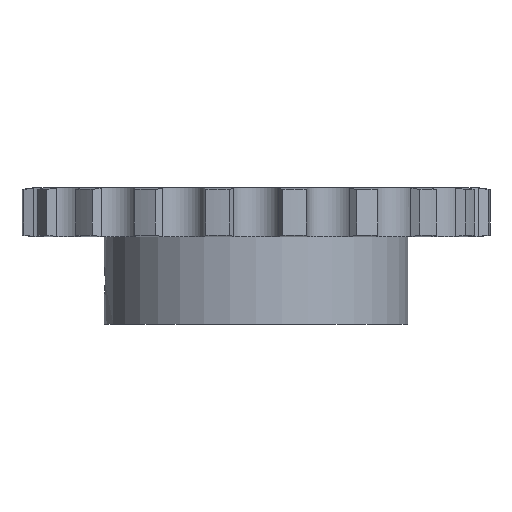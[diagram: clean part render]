
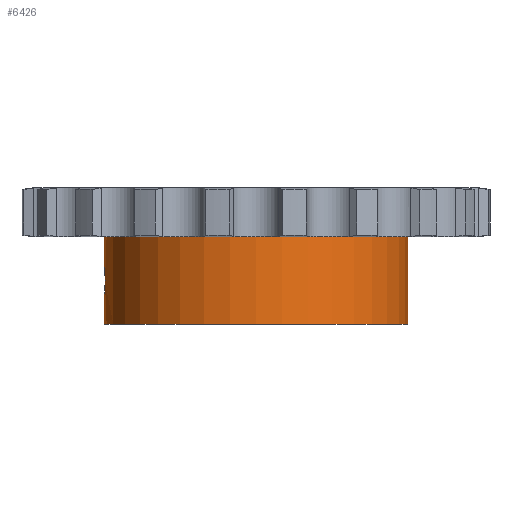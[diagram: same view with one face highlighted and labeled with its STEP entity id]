
A CAD part, front view. The second image highlights one B-rep face of the part: STEP entity #6426.
In plain terms, the highlighted cylindrical face has radius 50 mm (diameter 100 mm), a partial arc.
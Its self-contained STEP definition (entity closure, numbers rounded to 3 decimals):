
#1299=CARTESIAN_POINT('',(0.,0.,-8.1));
#1300=DIRECTION('',(0.,0.,1.));
#1301=DIRECTION('',(-1.,0.,0.));
#1302=AXIS2_PLACEMENT_3D('',#1299,#1300,#1301);
#3114=CARTESIAN_POINT('',(-50.,0.,
-17.5));
#3139=DIRECTION('',(0.,0.,1.));
#3140=VECTOR('',#3139,28.8);
#3141=CARTESIAN_POINT('',(50.,0.,-36.9));
#3142=LINE('',#3141,#3140);
#3268=CARTESIAN_POINT('',(-50.,0.,
-17.5));
#3269=CARTESIAN_POINT('',(-50.,-0.184,
-17.5));
#3270=CARTESIAN_POINT('',(-49.998,-0.58,
-17.521));
#3271=CARTESIAN_POINT('',(-49.987,-1.181,
-17.624));
#3272=CARTESIAN_POINT('',(-49.969,-1.789,
-17.807));
#3273=CARTESIAN_POINT('',(-49.945,-2.369,
-18.063));
#3274=CARTESIAN_POINT('',(-49.916,-2.912,
-18.389));
#3275=CARTESIAN_POINT('',(-49.884,-3.41,
-18.778));
#3276=CARTESIAN_POINT('',(-49.852,-3.852,
-19.224));
#3277=CARTESIAN_POINT('',(-49.821,-4.233,
-19.718));
#3278=CARTESIAN_POINT('',(-49.793,-4.55,
-20.255));
#3279=CARTESIAN_POINT('',(-49.769,-4.797,
-20.827));
#3280=CARTESIAN_POINT('',(-49.752,-4.97,
-21.422));
#3281=CARTESIAN_POINT('',(-49.743,-5.059,
-21.984));
#3282=CARTESIAN_POINT('',(-49.742,-5.076,
-22.343));
#3283=CARTESIAN_POINT('',(-49.742,-5.076,
-22.5));
#3288=DIRECTION('',(0.,0.,1.));
#3289=VECTOR('',#3288,9.4);
#3290=CARTESIAN_POINT('',(-50.,0.,
-17.5));
#3291=LINE('',#3290,#3289);
#3295=DIRECTION('',(0.,0.,1.));
#3296=VECTOR('',#3295,9.4);
#3297=CARTESIAN_POINT('',(-50.,0.,-36.9));
#3298=LINE('',#3297,#3296);
#3302=CARTESIAN_POINT('',(-49.742,-5.076,
-22.5));
#3303=CARTESIAN_POINT('',(-49.742,-5.076,
-22.668));
#3304=CARTESIAN_POINT('',(-49.744,-5.057,
-23.038));
#3305=CARTESIAN_POINT('',(-49.753,-4.963,
-23.609));
#3306=CARTESIAN_POINT('',(-49.77,-4.787,
-24.201));
#3307=CARTESIAN_POINT('',(-49.794,-4.538,
-24.769));
#3308=CARTESIAN_POINT('',(-49.822,-4.22,
-25.302));
#3309=CARTESIAN_POINT('',(-49.853,-3.838,
-25.792));
#3310=CARTESIAN_POINT('',(-49.885,-3.396,
-26.233));
#3311=CARTESIAN_POINT('',(-49.917,-2.9,
-26.62));
#3312=CARTESIAN_POINT('',(-49.945,-2.358,
-26.942));
#3313=CARTESIAN_POINT('',(-49.969,-1.78,
-27.196));
#3314=CARTESIAN_POINT('',(-49.987,-1.175,
-27.378));
#3315=CARTESIAN_POINT('',(-49.998,-0.577,
-27.479));
#3316=CARTESIAN_POINT('',(-50.,-0.183,
-27.5));
#3317=CARTESIAN_POINT('',(-50.,0.,
-27.5));
#3330=CARTESIAN_POINT('',(0.,0.,-36.9));
#3331=DIRECTION('',(0.,0.,-1.));
#3332=DIRECTION('',(1.,0.,0.));
#3333=AXIS2_PLACEMENT_3D('',#3330,#3331,#3332);
#3719=CARTESIAN_POINT('',(-50.,0.,-36.9));
#3720=CARTESIAN_POINT('',(50.,0.,-36.9));
#3721=VERTEX_POINT('',#3719);
#3722=VERTEX_POINT('',#3720);
#3723=CARTESIAN_POINT('',(50.,0.,-8.1));
#3724=VERTEX_POINT('',#3723);
#3725=CARTESIAN_POINT('',(-50.,0.,-8.1));
#3726=VERTEX_POINT('',#3725);
#3926=VERTEX_POINT('',#3114);
#3929=VERTEX_POINT('',#3283);
#3931=VERTEX_POINT('',#3317);
#6410=CARTESIAN_POINT('',(0.,0.,8.1));
#6411=DIRECTION('',(0.,0.,1.));
#6412=DIRECTION('',(1.,0.,0.));
#6413=AXIS2_PLACEMENT_3D('',#6410,#6411,#6412);
#6414=CYLINDRICAL_SURFACE('',#6413,50.);
#6415=ORIENTED_EDGE('',*,*,#6400,.F.);
#6416=ORIENTED_EDGE('',*,*,#5947,.T.);
#6417=ORIENTED_EDGE('',*,*,#5254,.T.);
#6418=ORIENTED_EDGE('',*,*,#5944,.F.);
#6420=ORIENTED_EDGE('',*,*,#6419,.T.);
#6421=ORIENTED_EDGE('',*,*,#5940,.T.);
#6423=ORIENTED_EDGE('',*,*,#6422,.F.);
#6424=EDGE_LOOP('',(#6415,#6416,#6417,#6418,#6420,#6421,#6423));
#6425=FACE_OUTER_BOUND('',#6424,.F.);
#6426=ADVANCED_FACE('',(#6425),#6414,.T.);
#1303=CIRCLE('',#1302,50.);
#3284=B_SPLINE_CURVE_WITH_KNOTS('',3,(#3268,#3269,#3270,#3271,#3272,#3273,#3274,
#3275,#3276,#3277,#3278,#3279,#3280,#3281,#3282,#3283),.UNSPECIFIED.,.F.,.F.,(4,
1,1,1,1,1,1,1,1,1,1,1,1,4),(0.,0.069,0.148,
0.227,0.306,0.385,0.464,
0.543,0.622,0.701,0.78,
0.859,0.938,1.),.UNSPECIFIED.);
#3318=B_SPLINE_CURVE_WITH_KNOTS('',3,(#3302,#3303,#3304,#3305,#3306,#3307,#3308,
#3309,#3310,#3311,#3312,#3313,#3314,#3315,#3316,#3317),.UNSPECIFIED.,.F.,.F.,(4,
1,1,1,1,1,1,1,1,1,1,1,1,4),(0.,0.067,0.145,
0.224,0.303,0.381,0.46,
0.538,0.617,0.696,0.774,
0.853,0.931,1.),.UNSPECIFIED.);
#3334=CIRCLE('',#3333,50.);
#5254=EDGE_CURVE('',#3726,#3724,#1303,.T.);
#5940=EDGE_CURVE('',#3721,#3931,#3298,.T.);
#5944=EDGE_CURVE('',#3722,#3724,#3142,.T.);
#5947=EDGE_CURVE('',#3926,#3726,#3291,.T.);
#6400=EDGE_CURVE('',#3926,#3929,#3284,.T.);
#6419=EDGE_CURVE('',#3722,#3721,#3334,.T.);
#6422=EDGE_CURVE('',#3929,#3931,#3318,.T.);
